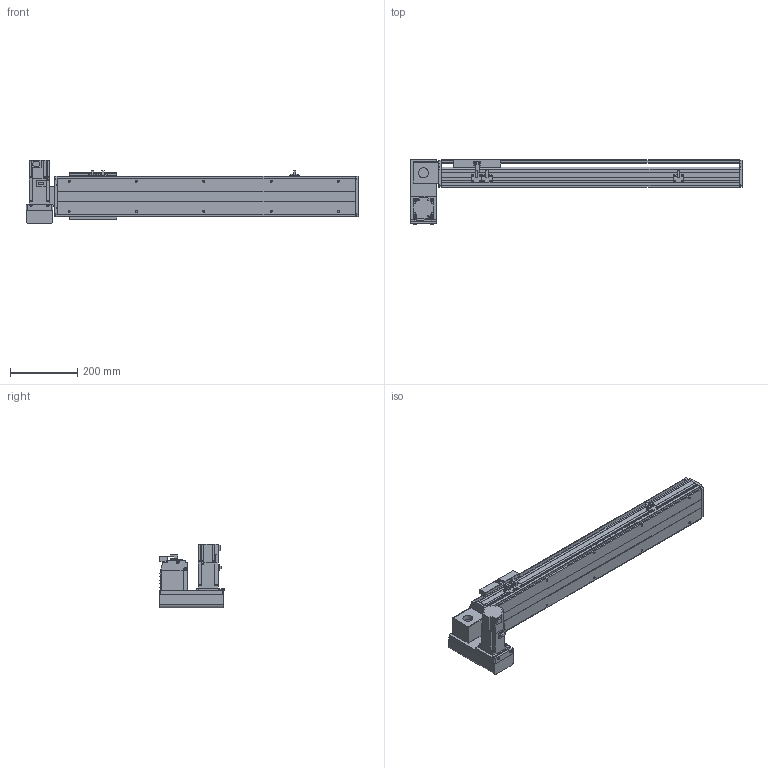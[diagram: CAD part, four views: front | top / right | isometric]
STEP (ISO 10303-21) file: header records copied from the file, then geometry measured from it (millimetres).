
FILE_DESCRIPTION(/* description */ ('STEP AP214'),/* implementation_level */ '2;1');
FILE_NAME(/* name */ 'PBS120-P40-S600-LD-T40-C1-N(0)',/* time_stamp */ '2022-06-06T02:15:56+02:00',/* author */ ('License CC BY-ND 4.0'),/* organization */ ('CADENAS'),/* preprocessor_version */ 'ST-DEVELOPER v18.102',/* originating_system */ 'PARTsolutions',/* authorisation */ ' ');
FILE_SCHEMA (('AUTOMOTIVE_DESIGN {1 0 10303 214 3 1 1}'));
Length unit declared in the file: millimetre
Products named in the file (7): PBS120-P40-S600-LD-T40-C1-N(0); PBS120_sensor; PBS120_plant; PBS120_sliser; T40-p1; PBS120T-LD_motors; PBS120-S600()_body
Assembly tree (8 placements, depth 2):
  PBS120-P40-S600-LD-T40-C1-N(0)
    PBS120_sensor  x3
    PBS120_plant
    PBS120_sliser
    T40-p1
    PBS120T-LD_motors
    PBS120-S600()_body
Bounding box: 986 x 196 x 189.7 mm (x, y, z)
Volume: 4659421.1 mm3; surface area: 876390 mm2
Topology: 8 solids, 8 shells, 810 faces, 2126 edges, 1369 vertices
Faces by surface type: plane 543, cylinder 223, cone 42, torus 2
Full cylindrical faces by diameter (mm): 2.459 x6, 3.242 x4, 4 x2, 4.134 x4, 4.5 x10, 4.917 x14, 5.5 x11, 6 x2, 6.6 x1, 7 x2, 8.5 x4, 9 x4, 12 x1, 14 x1, 30 x2, 40 x1, 50 x2
Entity records: 21234 total; most frequent: DIRECTION 3668, CARTESIAN_POINT 3623, ORIENTED_EDGE 3466, EDGE_CURVE 1733, LINE 1228, VECTOR 1228, AXIS2_PLACEMENT_3D 1220, VERTEX_POINT 1175
